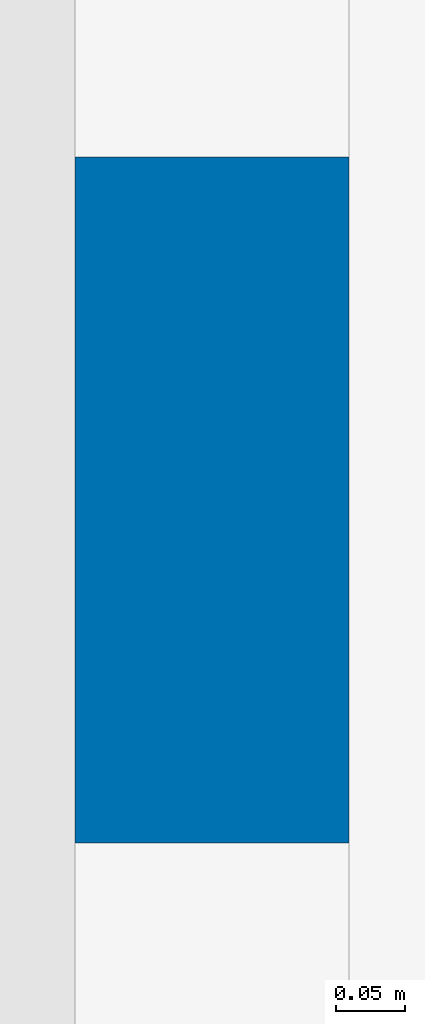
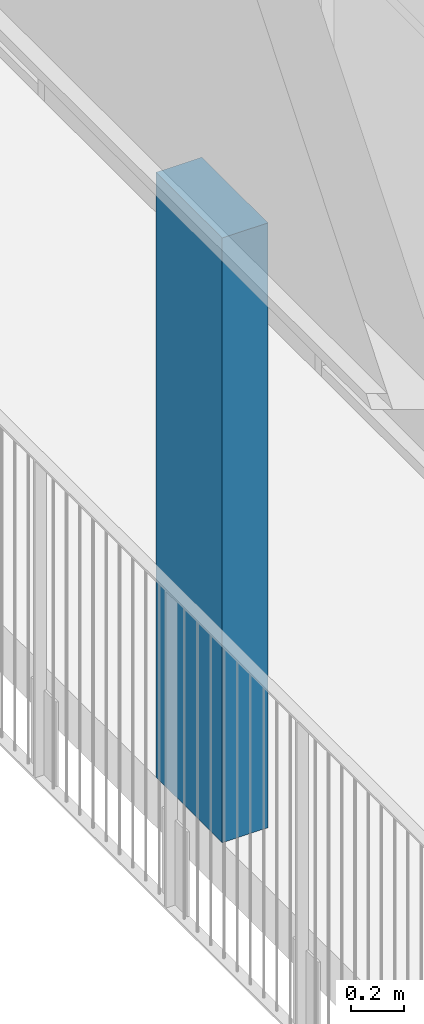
# One storey, part 3 of 44: 1 column.
"""IFC2X3 building model written with IfcOpenShell, lengths in centimetres."""

import ifcopenshell
import ifcopenshell.guid

model = None  # the IFC model being written
_history = None  # IfcOwnerHistory: only IFC2X3 demands one
_inside = {}  # id of a spatial element -> (the spatial element, [elements in it])
_under = {}  # id of a project, library or spatial element -> (it, [spatial elements below it])
_declared = {}  # id of a project -> (the project, [libraries it declares])
_typed = {}  # id of a type object -> (the type object, [elements of that type])
_made_of = {}  # id of a material, layer set ... -> (it, [elements and type objects made of it])


def new_model(schema):
    """Start an empty IFC model of exactly this schema.

    Asked for "IFC4X3", IfcOpenShell would pick the latest addendum, in which some entities
    have other attributes; the version numbers below select the first issue.
    IFC2X3 requires an IfcOwnerHistory on every rooted entity: one is made here for all.
    """
    global model, _history
    if schema == "IFC4X3":
        model = ifcopenshell.file(schema_version=(4, 3, 0, 0))
    else:
        model = ifcopenshell.file(schema=schema)
    _inside.clear()
    _under.clear()
    _declared.clear()
    _typed.clear()
    _made_of.clear()
    _history = None
    if model.schema == "IFC2X3":
        org = make("IfcOrganization", Name="unknown")
        user = make(
            "IfcPersonAndOrganization",
            ThePerson=make("IfcPerson", FamilyName="unknown"),
            TheOrganization=org,
        )
        app = make(
            "IfcApplication",
            ApplicationDeveloper=org,
            Version="unknown",
            ApplicationFullName="unknown",
            ApplicationIdentifier="unknown",
        )
        _history = make(
            "IfcOwnerHistory",
            OwningUser=user,
            OwningApplication=app,
            ChangeAction="ADDED",
            CreationDate=0,
        )
    return model


def make(cls, **values):
    """One entity of the class cls with the attributes given. An attribute that is None is left unset."""
    return model.create_entity(
        cls, **{name: value for name, value in values.items() if value is not None}
    )


def entity(cls, *values):
    """Any entity or typed value of the class cls, its attributes in the order of the schema. None: left unset."""
    e = model.create_entity(cls)
    for i, value in enumerate(values):
        if value is not None:
            e[i] = value
    return e


def rooted(cls, **values):
    """An entity with a GlobalId (a new one), such as an element, a storey or a relation."""
    return make(cls, GlobalId=ifcopenshell.guid.new(), OwnerHistory=_history, **values)


def si_unit(unit_type, name, prefix=None):
    """IfcSIUnit, for example si_unit("LENGTHUNIT", "METRE", prefix="MILLI")."""
    return make("IfcSIUnit", UnitType=unit_type, Prefix=prefix, Name=name)


def converted_unit(unit_type, name, factor, base, dimensions=None, offset=None):
    """IfcConversionBasedUnit, such as the inch: factor (a typed value) times the base unit."""
    return make(
        "IfcConversionBasedUnit"
        if offset is None
        else "IfcConversionBasedUnitWithOffset",
        ConversionOffset=offset,
        Dimensions=None
        if dimensions is None
        else entity("IfcDimensionalExponents", *dimensions),
        UnitType=unit_type,
        Name=name,
        ConversionFactor=make(
            "IfcMeasureWithUnit", ValueComponent=factor, UnitComponent=base
        ),
    )


def derived_unit(unit_type, elements):
    """IfcDerivedUnit: a product of units, each with its exponent."""
    return make(
        "IfcDerivedUnit",
        Elements=[
            make("IfcDerivedUnitElement", Unit=unit, Exponent=power)
            for unit, power in elements
        ],
        UnitType=unit_type,
    )


def assignment(units):
    """IfcUnitAssignment: the units of a project."""
    return None if units is None else make("IfcUnitAssignment", Units=units)


def point(xyz):
    """IfcCartesianPoint."""
    return None if xyz is None else make("IfcCartesianPoint", Coordinates=xyz)


def direction(xyz):
    """IfcDirection."""
    return None if xyz is None else make("IfcDirection", DirectionRatios=xyz)


def frame(location, z_axis=None, x_axis=None):
    """IfcAxis2Placement3D, a coordinate frame: its origin and axes. An axis left out is left unset."""
    return make(
        "IfcAxis2Placement3D",
        Location=point(location),
        Axis=direction(z_axis),
        RefDirection=direction(x_axis),
    )


def frame_2d(location, x_axis=None):
    """IfcAxis2Placement2D, a coordinate frame in the plane: its origin and x axis."""
    return make(
        "IfcAxis2Placement2D", Location=point(location), RefDirection=direction(x_axis)
    )


def origin():
    """The frame at (0, 0, 0) with its axes left unset."""
    return frame((0.0, 0.0, 0.0))


def place(relative_to, where):
    """IfcLocalPlacement: puts the frame where relative to a parent placement (None: the world)."""
    return make(
        "IfcLocalPlacement", PlacementRelTo=relative_to, RelativePlacement=where
    )


def context(
    kind, dimensions, precision=None, world=None, true_north=None, identifier=None
):
    """IfcGeometricRepresentationContext, for example the 3D "Model" context."""
    return make(
        "IfcGeometricRepresentationContext",
        ContextIdentifier=identifier,
        ContextType=kind,
        CoordinateSpaceDimension=dimensions,
        Precision=precision,
        WorldCoordinateSystem=world,
        TrueNorth=true_north,
    )


def subcontext(parent, identifier, kind, view, scale=None):
    """IfcGeometricRepresentationSubContext, for example "Body" below "Model"."""
    return make(
        "IfcGeometricRepresentationSubContext",
        ContextIdentifier=identifier,
        ContextType=kind,
        ParentContext=parent,
        TargetScale=scale,
        TargetView=view,
    )


def project(units=None, contexts=None):
    """IfcProject with its units and contexts."""
    return rooted(
        "IfcProject",
        Name="project",
        RepresentationContexts=contexts,
        UnitsInContext=assignment(units),
    )


def spatial(cls, under=None, at=None, **own):
    """A site, building, storey or space (cls), placed at a placement, below another one or the project."""
    s = rooted(cls, ObjectPlacement=at, **own)
    if under is not None:
        _under.setdefault(under.id(), (under, []))[1].append(s)
    return s


def profile(cls, at=None, kind="AREA", **sizes):
    """A parametric profile (cls). Its sizes go by their IFC names, for example OverallWidth=200.0."""
    return make(cls, ProfileType=kind, Position=at, **sizes)


def rectangle(**sizes):
    """IfcRectangleProfileDef."""
    return profile("IfcRectangleProfileDef", **sizes)


def extrude(swept, where, along, depth):
    """IfcExtrudedAreaSolid: the profile swept, set in the frame where, extruded along a direction by depth."""
    return make(
        "IfcExtrudedAreaSolid",
        SweptArea=swept,
        Position=where,
        ExtrudedDirection=direction(along),
        Depth=depth,
    )


def shape(context_of_items, identifier, shape_type, items):
    """IfcShapeRepresentation: the items that make up one representation, for example the "Body"."""
    return make(
        "IfcShapeRepresentation",
        ContextOfItems=context_of_items,
        RepresentationIdentifier=identifier,
        RepresentationType=shape_type,
        Items=items,
    )


def source(mapping_origin, context_of_items, identifier, shape_type, items):
    """IfcRepresentationMap: a shape defined once, which mapped items show again and again."""
    return make(
        "IfcRepresentationMap",
        MappingOrigin=mapping_origin,
        MappedRepresentation=shape(context_of_items, identifier, shape_type, items),
    )


def transform(
    local_origin,
    x_axis=None,
    y_axis=None,
    z_axis=None,
    scale=None,
    scale2=None,
    scale3=None,
    uniform=True,
):
    """IfcCartesianTransformationOperator3D, or its non-uniform kind. x_axis, y_axis, z_axis: its Axis1, 2, 3."""
    if uniform:
        return make(
            "IfcCartesianTransformationOperator3D",
            Axis1=direction(x_axis),
            Axis2=direction(y_axis),
            LocalOrigin=point(local_origin),
            Scale=scale,
            Axis3=direction(z_axis),
        )
    return make(
        "IfcCartesianTransformationOperator3DnonUniform",
        Axis1=direction(x_axis),
        Axis2=direction(y_axis),
        LocalOrigin=point(local_origin),
        Scale=scale,
        Axis3=direction(z_axis),
        Scale2=scale2,
        Scale3=scale3,
    )


def mapped(mapping_source, mapping_target):
    """IfcMappedItem: shows the shape of a source again, moved by a transform."""
    return make(
        "IfcMappedItem", MappingSource=mapping_source, MappingTarget=mapping_target
    )


def material(Name=None, Category=None):
    """IfcMaterial."""
    return make("IfcMaterial", Name=Name, Category=Category)


def made_of(thing, what):
    """Note that an element or type object is made of a material, layer set ...; save() writes the relation."""
    if what is not None:
        _made_of.setdefault(what.id(), (what, []))[1].append(thing)
    return thing


def type_object(cls, material=None, **own):
    """A type object (cls), such as IfcWallType, which elements share."""
    return made_of(rooted(cls, **own), material)


def type_shapes(of_type, sources):
    """Give a type object the sources (RepresentationMaps) that its elements show as mapped items."""
    of_type.RepresentationMaps = sources


def element(
    cls,
    number,
    at=None,
    inside=None,
    cuts=None,
    type_object=None,
    material=None,
    context=None,
    identifier="Body",
    shape_type=None,
    held_by="IfcProductDefinitionShape",
    body=None,
    shapes=None,
    **own,
):
    """One element of the class cls, such as IfcWall. Its Tag is "e" and its number.

    at: its placement. inside: the storey or other place that contains it. cuts: it is an
    opening in that element (IfcRelVoidsElement). A single representation is given by context,
    identifier, shape_type and body (its items); several are given by shapes. held_by: the class
    of the entity that holds the representations. save() writes the other relations.
    """
    e = rooted(cls, Tag="e%d" % number, ObjectPlacement=at, **own)
    if body is not None:
        shapes = [shape(context, identifier, shape_type, body)]
    if shapes is not None:
        e.Representation = make(held_by, Representations=shapes)
    if inside is not None:
        _inside.setdefault(inside.id(), (inside, []))[1].append(e)
    if cuts is not None:
        rooted(
            "IfcRelVoidsElement", RelatingBuildingElement=cuts, RelatedOpeningElement=e
        )
    if type_object is not None:
        _typed.setdefault(type_object.id(), (type_object, []))[1].append(e)
    return made_of(e, material)


def aggregate(whole, parts):
    """IfcRelAggregates: a whole, such as a stair, and the parts it consists of."""
    return rooted("IfcRelAggregates", RelatingObject=whole, RelatedObjects=parts)


def save(model, path):
    """Write the relations noted so far, then the file.

    IfcRelAggregates (storeys below a building ...), IfcRelContainedInSpatialStructure (elements
    in a storey), IfcRelDefinesByType, IfcRelAssociatesMaterial and IfcRelDeclares: one each for
    every whole, place, type object, material and project.
    """
    for whole, parts in _under.values():
        aggregate(whole, parts)
    for where, things in _inside.values():
        rooted(
            "IfcRelContainedInSpatialStructure",
            RelatedElements=things,
            RelatingStructure=where,
        )
    for kind, things in _typed.values():
        rooted("IfcRelDefinesByType", RelatedObjects=things, RelatingType=kind)
    for what, things in _made_of.values():
        rooted("IfcRelAssociatesMaterial", RelatedObjects=things, RelatingMaterial=what)
    for by, libraries in _declared.values():
        rooted("IfcRelDeclares", RelatingContext=by, RelatedDefinitions=libraries)
    model.write(path)


model = new_model("IFC2X3")

# Units and contexts
model_context = context("Model", 3, precision=0.001, world=origin(), true_north=direction((6.12303176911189e-17, 1.0)))
body_context = subcontext(model_context, "Body", "Model", "MODEL_VIEW")
ifc_project = project(units=[si_unit("LENGTHUNIT", "METRE", prefix="CENTI"), si_unit("AREAUNIT", "SQUARE_METRE"), si_unit("VOLUMEUNIT", "CUBIC_METRE"), converted_unit("PLANEANGLEUNIT", "DEGREE", entity("IfcRatioMeasure", 0.0174532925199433), si_unit("PLANEANGLEUNIT", "RADIAN"), dimensions=[0, 0, 0, 0, 0, 0, 0]), si_unit("MASSUNIT", "GRAM", prefix="KILO"), si_unit("TIMEUNIT", "SECOND"), si_unit("FREQUENCYUNIT", "HERTZ"), si_unit("THERMODYNAMICTEMPERATUREUNIT", "DEGREE_CELSIUS"), derived_unit("THERMALTRANSMITTANCEUNIT", [(si_unit("MASSUNIT", "GRAM", prefix="KILO"), 1), (si_unit("THERMODYNAMICTEMPERATUREUNIT", "KELVIN"), -1), (si_unit("TIMEUNIT", "SECOND"), -3)]), derived_unit("VOLUMETRICFLOWRATEUNIT", [(si_unit("LENGTHUNIT", "METRE"), 3), (si_unit("TIMEUNIT", "SECOND"), -1)]), si_unit("ELECTRICCURRENTUNIT", "AMPERE"), si_unit("ELECTRICVOLTAGEUNIT", "VOLT"), si_unit("POWERUNIT", "WATT"), si_unit("FORCEUNIT", "NEWTON", prefix="KILO"), si_unit("ILLUMINANCEUNIT", "LUX"), si_unit("LUMINOUSFLUXUNIT", "LUMEN"), si_unit("LUMINOUSINTENSITYUNIT", "CANDELA"), derived_unit("USERDEFINED", [(si_unit("MASSUNIT", "GRAM", prefix="KILO"), -1), (si_unit("LENGTHUNIT", "METRE"), -2), (si_unit("TIMEUNIT", "SECOND"), 3), (si_unit("LUMINOUSFLUXUNIT", "LUMEN"), 1)]), derived_unit("LINEARVELOCITYUNIT", [(si_unit("LENGTHUNIT", "METRE"), 1), (si_unit("TIMEUNIT", "SECOND"), -1)]), si_unit("PRESSUREUNIT", "PASCAL"), derived_unit("USERDEFINED", [(si_unit("LENGTHUNIT", "METRE"), -2), (si_unit("MASSUNIT", "GRAM", prefix="KILO"), 1), (si_unit("TIMEUNIT", "SECOND"), -2)])], contexts=[model_context])

# Site, building, storey
site_placement = place(None, frame((8.62739174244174, -249.285249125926, 0.0)))
site = spatial("IfcSite", under=ifc_project, at=site_placement, Name="Default", CompositionType="ELEMENT")
building_placement = place(site_placement, origin())
building = spatial("IfcBuilding", under=site, at=building_placement, CompositionType="ELEMENT")
storey_placement = place(building_placement, frame((0.0, 0.0, 343.0)))
storey = spatial("IfcBuildingStorey", under=building, at=storey_placement, Name="R+1", CompositionType="ELEMENT", Elevation=343.0)

# Column
ifc_material = material(Name="Béton, coulé sur place, gris")
column_type = type_object("IfcColumnType", Name="Diamètre de 200 mm", PredefinedType="COLUMN", material=ifc_material)
shared_shape = source(origin(), body_context, "Body", "SweptSolid", [
    extrude(rectangle(XDim=49.9999999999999, YDim=20.0, at=frame_2d((-1.77635683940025e-15, 0.0), x_axis=(1.0, 0.0))), frame((0.0, 0.0, 343.0), z_axis=(0.0, 0.0, 1.0), x_axis=(0.0, -1.0, 0.0)), (0.0, 0.0, 1.0), 279.0),
])
type_shapes(column_type, [shared_shape])
column_placement = place(storey_placement, frame((3043.9048277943, 4000.18519336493, -343.0), z_axis=(0.0, 0.0, 1.0), x_axis=(-1.0, 0.0, 0.0)))
element("IfcColumn", 1, at=column_placement, inside=storey, type_object=column_type, material=ifc_material, Name="Poteau porteur rectangle:Diamètre de 200 mm", ObjectType="Diamètre de 200 mm", context=body_context, shape_type="MappedRepresentation", body=[
    mapped(shared_shape, transform((0.0, 0.0, 0.0), scale=1.0)),
])

save(model, "model.ifc")
